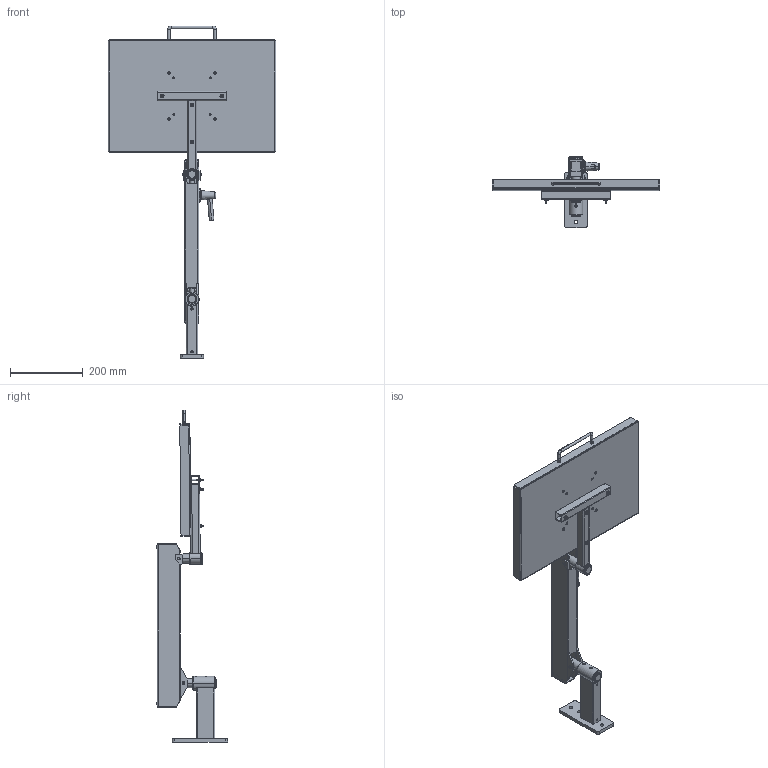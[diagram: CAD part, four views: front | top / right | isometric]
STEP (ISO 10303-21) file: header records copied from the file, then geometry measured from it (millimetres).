
FILE_DESCRIPTION (( 'STEP AP203' ), '1' );
FILE_NAME ('70-0721-00 REV AA, 13.5in FLEX SYSTEM, TOOL TRAY, WALL MOUNT W EXT - EXTENDED FLAT.STEP', '2025-09-15T22:06:11', ( '' ), ( '' ), 'SwSTEP 2.0', 'SolidWorks 2025', '' );
FILE_SCHEMA (( 'CONFIG_CONTROL_DESIGN' ));
Length unit declared in the file: inch
Products named in the file (52): 71-1032-RX REV AA, SPRING ROD, 13.5in FLEX; 71-0029-RX REV AA, TAB, LOAD; 006-059-00; 004-144-00; 11-0602-RX REV AA, HANDLE, BRAKE ASSEMBLY; 71-1301-BLKX REV AA, FLEX HOUSING, 13.5in, BLACK_Powder Coat; 006-004-00_006-004-00; 71-1300-RX REV AA, HOUSING, 13.5in FLEX; 71-0047-RX REV AA, HOUSING, T AND STRAIGHT BAR_MACHINE; 70-0721-00 REV AA, 13.5in FLEX SYSTEM, TOOL TRAY, WALL MOUNT W EXT - EXTENDED FLAT; 71-0028-RX REV AA, TAB, MOUNT_MACHINE; 70-1321-00 REV AA, FLEX SECTION, 13.5in, 4-21 LB; 013-062-00, SPRING, RED, 1x8_ISO425203; 70-0050-00 REV AA, T BAR; 006-008-00, NUT, HEX, 10-32 x .125_006-008-00; 11-0450-00 REV AA, FOAM, YELLOW, 18x12; 11-0650-00 REV AA, BRAKE HANDLE ASSEMBLY; 71-1033-RX REV AA, BOLT, ADJUSTING, 10.9; 71-0217-RX REV AA, PLATE, NARROW WALL MOUNT_Laser; 011-033-00; 010-012-00, RETAINING RING, EXTERNAL, .875in SHAFT; 71-0030-RX REV AA, KNUCKLE, LOAD_MACHINE; 71-0091-RX REV AA, HOUSING, WALL MOUNT, 6in EXTENSION; 016-070-00, BEARING, PLASTIC, .5ID x .625 OD x .75; 71-0052-RX REV AA, HOUSING, T AND STRAIGHT BAR CROSS SECTION_MACHINE; 025-067-00, HANDLE, U SHAPED, 8-32; 71-0037-RX REV AA, PIVOT, THREADED; 011-020-00 REV AA, PIN, KNURLED, 1.0LG x .25OD; 71-0071-RX REV AA, AXLE PIN, LONG; 11-0401-00 REV AA, 18x12 TOOL TRAY, BLACK; 71-0070-RX REV AA, AXLE PIN, SHORT; 70-0401-00 REV AA, 18x12 SUPPORT TRAY ASSEMBLY; 71-0040-RX REV AA, BRAKE BLOCK, WIDE_MACHINE; 004-050-00, WASHER, FIBER, .032 THK, .265ID; 71-0013-RX REV AA, HOUSING, BEARING, SHORT_MACHINE; 71-0031-RX REV AA, KNUCKLE, MOUNT_MACHINE; 002-041-00_002-041-00; 002-100-00, BHSCS, 8-32x.375_002-100-00; 71-0038-RX REV AA, PIVOT, KNUCKLE, ELECTROLESS NICKEL; 010-011-00, RETAINING RING, EXT, .250 SHAFT_010-011-00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
Assembly tree (80 placements, depth 4):
  70-0721-00 REV AA, 13.5in FLEX SYSTEM, TOOL TRAY, WALL MOUNT W EXT - EXTENDED FLAT
    70-0095-00 REV AA, STUD MOUNT, 6in EXT
      71-0217-RX REV AA, PLATE, NARROW WALL MOUNT_Laser
      71-0091-RX REV AA, HOUSING, WALL MOUNT, 6in EXTENSION
      71-2113-RX REV AA, HOUSING, BEARING, TALL, 1.5OD_MACHINE
      016-007-00, OILITE PLUS BEARING, 0.876 id x 1.002 od x 0.75 lg
      016-008-00, OILITE PLUS BEARING, 0.876 id x 1.002 od x 1.25 lg
      007-036-00, SHSS, 1''4-28, .25L_007-036-00
    70-1321-00 REV AA, FLEX SECTION, 13.5in, 4-21 LB
      71-0031-RX REV AA, KNUCKLE, MOUNT_MACHINE
      71-1032-RX REV AA, SPRING ROD, 13.5in FLEX
      71-0030-RX REV AA, KNUCKLE, LOAD_MACHINE
      71-0038-RX REV AA, PIVOT, KNUCKLE, ELECTROLESS NICKEL
      71-1033-RX REV AA, BOLT, ADJUSTING, 10.9
      71-0037-RX REV AA, PIVOT, THREADED
      71-0040-RX REV AA, BRAKE BLOCK, WIDE_MACHINE
      71-1051-RX REV AA, SPRING BLOCK
      71-0070-RX REV AA, AXLE PIN, SHORT
      11-0027-RX REV AA, PLASTIC DISC, BRAKE ASSEMBLY_MACHINE
      11-0650-00 REV AA, BRAKE HANDLE ASSEMBLY
        11-0601-99 REV AA, CONICAL KNOB, BRAKE ASSEMBLY
        11-0602-RX REV AA, HANDLE, BRAKE ASSEMBLY
        11-0027-RX REV AA, PLASTIC DISC, BRAKE ASSEMBLY_MACHINE
        005-084-00, BOLT, 1''4-20x2.75
      71-1301-BLKX REV AA, FLEX HOUSING, 13.5in, BLACK_Powder Coat
        71-1300-RX REV AA, HOUSING, 13.5in FLEX
        71-0029-RX REV AA, TAB, LOAD  x2
        71-0028-RX REV AA, TAB, MOUNT_MACHINE  x2
      71-0071-RX REV AA, AXLE PIN, LONG
      010-011-00, RETAINING RING, EXT, .250 SHAFT_010-011-00  x4
      71-0972-99 REV AA, END CAP, FLEX  x2
      006-004-00_006-004-00  x2
      002-041-00_002-041-00  x2
      010-012-00, RETAINING RING, EXTERNAL, .875in SHAFT  x2
      011-033-00
      004-050-00, WASHER, FIBER, .032 THK, .265ID  x8
      011-020-00 REV AA, PIN, KNURLED, 1.0LG x .25OD  x2
      004-144-00  x3
      006-059-00
      013-062-00, SPRING, RED, 1x8_ISO425203
      016-070-00, BEARING, PLASTIC, .5ID x .625 OD x .75  x2
    70-0401-00 REV AA, 18x12 SUPPORT TRAY ASSEMBLY
      11-0401-00 REV AA, 18x12 TOOL TRAY, BLACK
      70-0050-00 REV AA, T BAR
        71-0047-RX REV AA, HOUSING, T AND STRAIGHT BAR_MACHINE
        71-0013-RX REV AA, HOUSING, BEARING, SHORT_MACHINE
        71-0052-RX REV AA, HOUSING, T AND STRAIGHT BAR CROSS SECTION_MACHINE
        016-008-00, OILITE PLUS BEARING, 0.876 id x 1.002 od x 1.25 lg
        007-031-00_007-031-00
      002-091-00, FHSCS, 10-32x1.5, BO_002-091-00  x4
      006-008-00, NUT, HEX, 10-32 x .125_006-008-00  x4
      025-067-00, HANDLE, U SHAPED, 8-32
      002-100-00, BHSCS, 8-32x.375_002-100-00  x2
      11-0450-00 REV AA, FOAM, YELLOW, 18x12
Bounding box: 461.77 x 195.71 x 913.75 mm (x, y, z)
Volume: 1632294.3 mm3; surface area: 1132002.9 mm2
Topology: 76 solids, 76 shells, 2046 faces, 4975 edges, 3075 vertices
Faces by surface type: cylinder 906, plane 567, cone 418, torus 89, bspline 56, sphere 10
Entity records: 90110 total; most frequent: CARTESIAN_POINT 54434, ORIENTED_EDGE 6182, DIRECTION 6087, EDGE_CURVE 3091, AXIS2_PLACEMENT_3D 2350, VERTEX_POINT 1921, EDGE_LOOP 1418, LINE 1387
